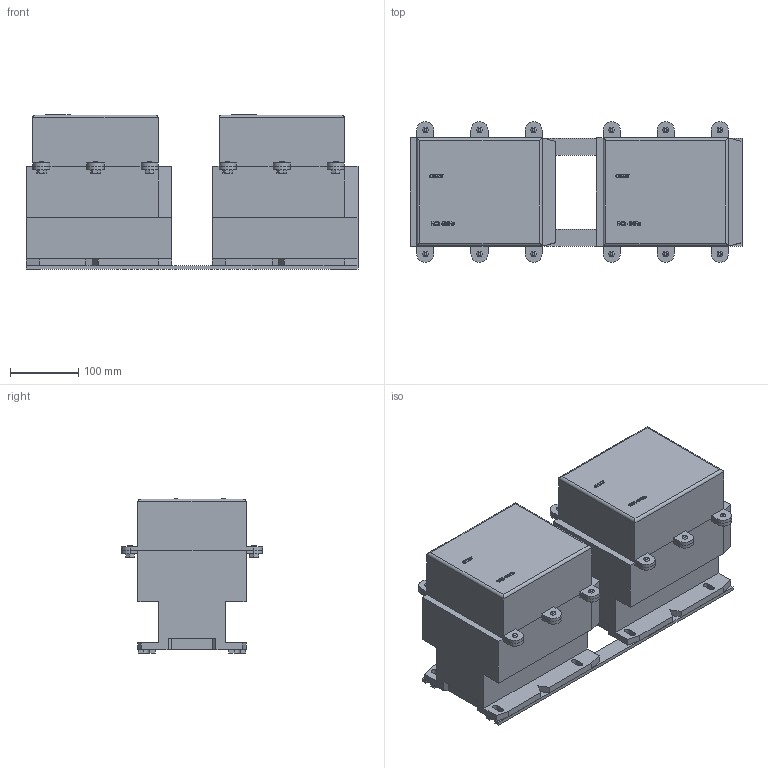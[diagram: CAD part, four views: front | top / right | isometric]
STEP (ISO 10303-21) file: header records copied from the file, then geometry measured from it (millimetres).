
FILE_DESCRIPTION(/* description */ (''),/* implementation_level */ '2;1');
FILE_NAME(/* name */ 'D:\CHINT2\NC2-N\NC2-400Ns 230В 50Гц (горизонтальная установка).stp',/* time_stamp */ '2017-11-12T21:13:00+03:00',/* author */ ('RSagdiev'),/* organization */ (''),/* preprocessor_version */ 'ST-DEVELOPER v16.5',/* originating_system */ 'Autodesk Inventor 2017',/* authorisation */ '');
FILE_SCHEMA (('AUTOMOTIVE_DESIGN { 1 0 10303 214 3 1 1 }'));
Length unit declared in the file: millimetre
Products named in the file (1): NC2-400Ns 230В 50Гц (\X2\0433043E044004380437
043E043D04420430043B044C043D0430044F\X0\ \X2\0443044104420430043D043E0432
043A0430\X0\)
Bounding box: 485 x 206 x 225.1 mm (x, y, z)
Volume: 12688978 mm3; surface area: 695311.9 mm2
Topology: 30 solids, 30 shells, 766 faces, 2028 edges, 1356 vertices
Faces by surface type: plane 534, bspline 180, cylinder 52
Entity records: 25226 total; most frequent: CARTESIAN_POINT 7175, ORIENTED_EDGE 4056, DIRECTION 2998, EDGE_CURVE 2028, LINE 1536, VECTOR 1536, VERTEX_POINT 1356, EDGE_LOOP 816
